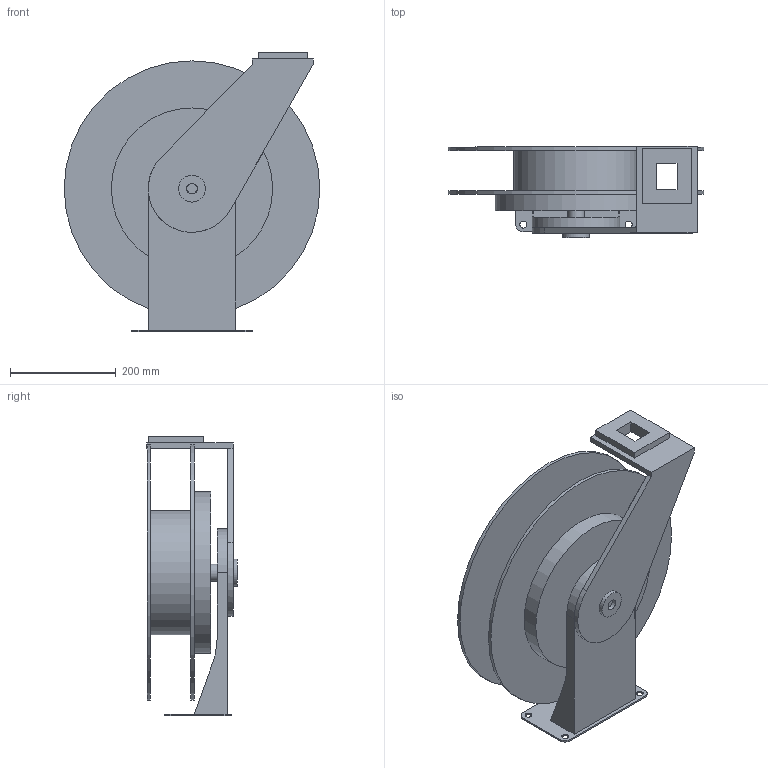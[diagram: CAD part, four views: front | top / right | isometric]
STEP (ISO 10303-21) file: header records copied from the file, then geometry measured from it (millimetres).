
FILE_DESCRIPTION( ( 'Unknown' ), '1' );
FILE_NAME( 'J:/NPD/RE 12893 3D WEB MODELS/7000 SERIES/7000 OLP TW.stp', 'Unknown', ( 'Unknown' ), ( 'Unknown' ), 'PSStep 10.1', 'Unknown', ' ' );
FILE_SCHEMA( ( 'AUTOMOTIVE_DESIGN { 1 0 10303 214 1 1 1 1 }' ) );
Length unit declared in the file: millimetre
Products named in the file (1): 1
Bounding box: 482.6 x 171.45 x 527.84 mm (x, y, z)
Volume: 5596665.5 mm3; surface area: 1155595.8 mm2
Topology: 1 solids, 2 shells, 115 faces, 273 edges, 179 vertices
Faces by surface type: plane 80, cylinder 26, cone 8, bspline 1
Full cylindrical faces by diameter (mm): 13.106 x4, 18.923 x2, 24.13 x1, 31.75 x1, 38.1 x1, 44.45 x1, 50.8 x1, 107.95 x1, 231.953 x1, 234.95 x1, 304.648 x1, 482.6 x2
Entity records: 4174 total; most frequent: CARTESIAN_POINT 645, DIRECTION 531, ORIENTED_EDGE 492, EDGE_CURVE 246, AXIS2_PLACEMENT_3D 187, VERTEX_POINT 173, EDGE_LOOP 163, LINE 157
